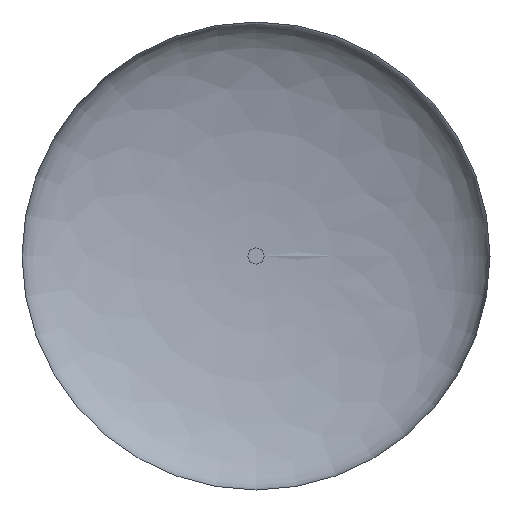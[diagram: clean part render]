
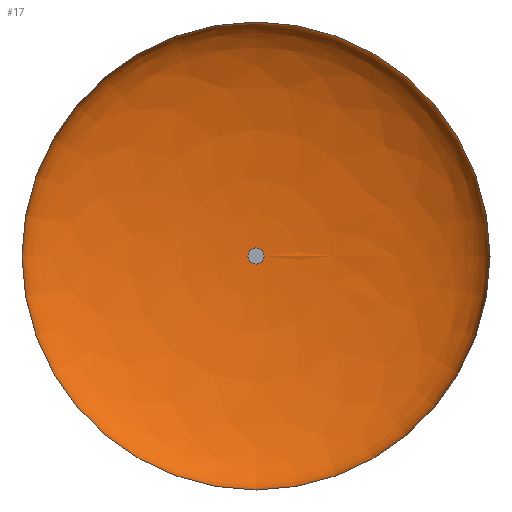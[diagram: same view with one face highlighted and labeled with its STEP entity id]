
A CAD part, front view. The second image highlights one B-rep face of the part: STEP entity #17.
In plain terms, the highlighted face is a revolution surface.
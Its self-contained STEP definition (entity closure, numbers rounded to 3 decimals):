
#17 = ADVANCED_FACE('',(#18),#31,.F.);
#18 = FACE_BOUND('',#19,.F.);
#19 = EDGE_LOOP('',(#20,#58,#82,#109));
#20 = ORIENTED_EDGE('',*,*,#21,.T.);
#21 = EDGE_CURVE('',#22,#22,#24,.T.);
#22 = VERTEX_POINT('',#23);
#23 = CARTESIAN_POINT('',(58.2,42.,0.));
#24 = SURFACE_CURVE('',#25,(#30,#46),.PCURVE_S1.);
#25 = CIRCLE('',#26,58.2);
#26 = AXIS2_PLACEMENT_3D('',#27,#28,#29);
#27 = CARTESIAN_POINT('',(0.,42.,0.));
#28 = DIRECTION('',(-0.,1.,0.));
#29 = DIRECTION('',(1.,0.,0.));
#30 = PCURVE('',#31,#40);
#31 = SURFACE_OF_REVOLUTION('',#32,#37);
#32 = ELLIPSE('',#33,58.2,16.009);
#33 = AXIS2_PLACEMENT_3D('',#34,#35,#36);
#34 = CARTESIAN_POINT('',(0.,42.,0.));
#35 = DIRECTION('',(0.,0.,1.));
#36 = DIRECTION('',(1.,0.,-0.));
#37 = AXIS1_PLACEMENT('',#38,#39);
#38 = CARTESIAN_POINT('',(0.,0.,0.));
#39 = DIRECTION('',(0.,1.,0.));
#40 = DEFINITIONAL_REPRESENTATION('',(#41),#45);
#41 = LINE('',#42,#43);
#42 = CARTESIAN_POINT('',(0.,0.));
#43 = VECTOR('',#44,1.);
#44 = DIRECTION('',(1.,0.));
#45 = ( GEOMETRIC_REPRESENTATION_CONTEXT(2) 
PARAMETRIC_REPRESENTATION_CONTEXT() REPRESENTATION_CONTEXT('2D SPACE',''
  ) );
#46 = PCURVE('',#47,#52);
#47 = CYLINDRICAL_SURFACE('',#48,58.2);
#48 = AXIS2_PLACEMENT_3D('',#49,#50,#51);
#49 = CARTESIAN_POINT('',(0.,44.4,0.));
#50 = DIRECTION('',(-0.,-1.,-0.));
#51 = DIRECTION('',(1.,-0.,0.));
#52 = DEFINITIONAL_REPRESENTATION('',(#53),#57);
#53 = LINE('',#54,#55);
#54 = CARTESIAN_POINT('',(-0.,2.4));
#55 = VECTOR('',#56,1.);
#56 = DIRECTION('',(-1.,0.));
#57 = ( GEOMETRIC_REPRESENTATION_CONTEXT(2) 
PARAMETRIC_REPRESENTATION_CONTEXT() REPRESENTATION_CONTEXT('2D SPACE',''
  ) );
#58 = ORIENTED_EDGE('',*,*,#59,.T.);
#59 = EDGE_CURVE('',#22,#60,#62,.T.);
#60 = VERTEX_POINT('',#61);
#61 = CARTESIAN_POINT('',(2.,58.,0.));
#62 = SEAM_CURVE('',#63,(#68,#75),.PCURVE_S1.);
#63 = ELLIPSE('',#64,58.2,16.009);
#64 = AXIS2_PLACEMENT_3D('',#65,#66,#67);
#65 = CARTESIAN_POINT('',(0.,42.,0.));
#66 = DIRECTION('',(0.,0.,1.));
#67 = DIRECTION('',(1.,0.,-0.));
#68 = PCURVE('',#31,#69);
#69 = DEFINITIONAL_REPRESENTATION('',(#70),#74);
#70 = LINE('',#71,#72);
#71 = CARTESIAN_POINT('',(0.,0.));
#72 = VECTOR('',#73,1.);
#73 = DIRECTION('',(0.,1.));
#74 = ( GEOMETRIC_REPRESENTATION_CONTEXT(2) 
PARAMETRIC_REPRESENTATION_CONTEXT() REPRESENTATION_CONTEXT('2D SPACE',''
  ) );
#75 = PCURVE('',#31,#76);
#76 = DEFINITIONAL_REPRESENTATION('',(#77),#81);
#77 = LINE('',#78,#79);
#78 = CARTESIAN_POINT('',(6.283,0.));
#79 = VECTOR('',#80,1.);
#80 = DIRECTION('',(0.,1.));
#81 = ( GEOMETRIC_REPRESENTATION_CONTEXT(2) 
PARAMETRIC_REPRESENTATION_CONTEXT() REPRESENTATION_CONTEXT('2D SPACE',''
  ) );
#82 = ORIENTED_EDGE('',*,*,#83,.F.);
#83 = EDGE_CURVE('',#60,#60,#84,.T.);
#84 = SURFACE_CURVE('',#85,(#90,#97),.PCURVE_S1.);
#85 = CIRCLE('',#86,2.);
#86 = AXIS2_PLACEMENT_3D('',#87,#88,#89);
#87 = CARTESIAN_POINT('',(0.,58.,0.));
#88 = DIRECTION('',(-0.,1.,0.));
#89 = DIRECTION('',(1.,0.,0.));
#90 = PCURVE('',#31,#91);
#91 = DEFINITIONAL_REPRESENTATION('',(#92),#96);
#92 = LINE('',#93,#94);
#93 = CARTESIAN_POINT('',(0.,1.536));
#94 = VECTOR('',#95,1.);
#95 = DIRECTION('',(1.,0.));
#96 = ( GEOMETRIC_REPRESENTATION_CONTEXT(2) 
PARAMETRIC_REPRESENTATION_CONTEXT() REPRESENTATION_CONTEXT('2D SPACE',''
  ) );
#97 = PCURVE('',#98,#103);
#98 = PLANE('',#99);
#99 = AXIS2_PLACEMENT_3D('',#100,#101,#102);
#100 = CARTESIAN_POINT('',(0.,58.,0.));
#101 = DIRECTION('',(0.,1.,0.));
#102 = DIRECTION('',(1.,0.,0.));
#103 = DEFINITIONAL_REPRESENTATION('',(#104),#108);
#104 = CIRCLE('',#105,2.);
#105 = AXIS2_PLACEMENT_2D('',#106,#107);
#106 = CARTESIAN_POINT('',(0.,0.));
#107 = DIRECTION('',(1.,0.));
#108 = ( GEOMETRIC_REPRESENTATION_CONTEXT(2) 
PARAMETRIC_REPRESENTATION_CONTEXT() REPRESENTATION_CONTEXT('2D SPACE',''
  ) );
#109 = ORIENTED_EDGE('',*,*,#59,.F.);
